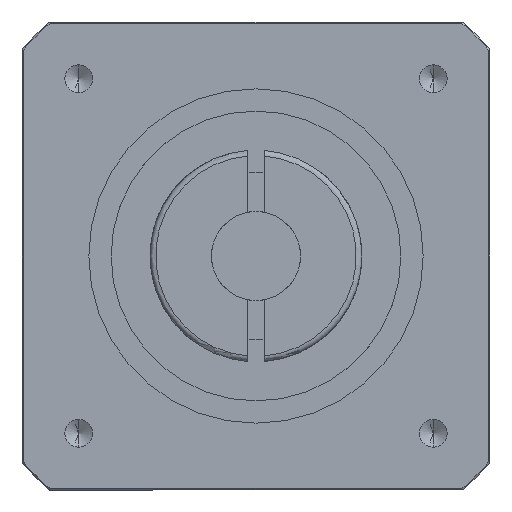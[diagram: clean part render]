
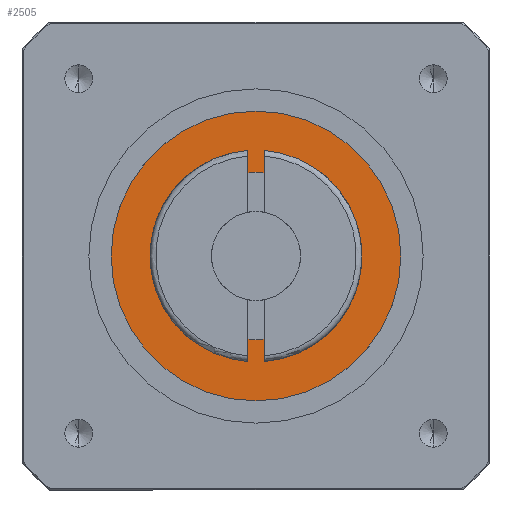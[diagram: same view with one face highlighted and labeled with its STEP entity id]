
A CAD part, front view. The second image highlights one B-rep face of the part: STEP entity #2505.
In plain terms, the highlighted planar face has unit normal (0, -1, 0).
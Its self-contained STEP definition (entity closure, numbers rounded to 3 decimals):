
#1043 = VERTEX_POINT ( 'NONE', #1630 ) ;
#1630 = CARTESIAN_POINT ( 'NONE',  ( 0., -64., -7.5 ) ) ;
#1774 = CARTESIAN_POINT ( 'NONE',  ( 0., -64., 7.5 ) ) ;
#1888 = CARTESIAN_POINT ( 'NONE',  ( 0., -64., 13. ) ) ;
#2079 = VERTEX_POINT ( 'NONE', #1888 ) ;
#2091 = VERTEX_POINT ( 'NONE', #1774 ) ;
#2130 = VERTEX_POINT ( 'NONE', #8986 ) ;
#2505 = ADVANCED_FACE ( 'NONE', ( #6871, #6875 ), #7913, .T. ) ;
#2688 = EDGE_CURVE ( 'NONE', #2091, #1043, #7138, .T. ) ;
#2692 = EDGE_CURVE ( 'NONE', #2079, #2130, #7140, .T. ) ;
#3477 = EDGE_LOOP ( 'NONE', ( #3758, #3759 ) ) ;
#3484 = EDGE_LOOP ( 'NONE', ( #3760, #3761 ) ) ;
#3758 = ORIENTED_EDGE ( 'NONE', *, *, #4402, .T. ) ;
#3759 = ORIENTED_EDGE ( 'NONE', *, *, #2692, .T. ) ;
#3760 = ORIENTED_EDGE ( 'NONE', *, *, #2688, .T. ) ;
#3761 = ORIENTED_EDGE ( 'NONE', *, *, #4403, .T. ) ;
#4402 = EDGE_CURVE ( 'NONE', #2130, #2079, #10139, .T. ) ;
#4403 = EDGE_CURVE ( 'NONE', #1043, #2091, #10151, .T. ) ;
#6344 = AXIS2_PLACEMENT_3D ( 'NONE', #7910, #7915, #7916 ) ;
#6871 = FACE_OUTER_BOUND ( 'NONE', #3477, .T. ) ;
#6875 = FACE_BOUND ( 'NONE', #3484, .T. ) ;
#7138 = CIRCLE ( 'NONE', #8624, 7.5 ) ;
#7140 = CIRCLE ( 'NONE', #8626, 13. ) ;
#7910 = CARTESIAN_POINT ( 'NONE',  ( 0., -64., 0. ) ) ;
#7913 = PLANE ( 'NONE',  #6344 ) ;
#7915 = DIRECTION ( 'NONE',  ( 0., -1., 0. ) ) ;
#7916 = DIRECTION ( 'NONE',  ( 0., 0., -1. ) ) ;
#8520 = CARTESIAN_POINT ( 'NONE',  ( 0., -64., 0. ) ) ;
#8521 = DIRECTION ( 'NONE',  ( 0., 1., 0. ) ) ;
#8522 = DIRECTION ( 'NONE',  ( 0., 0., 1. ) ) ;
#8624 = AXIS2_PLACEMENT_3D ( 'NONE', #8520, #8521, #8522 ) ;
#8626 = AXIS2_PLACEMENT_3D ( 'NONE', #9091, #9092, #9093 ) ;
#8750 = AXIS2_PLACEMENT_3D ( 'NONE', #11095, #11096, #11097 ) ;
#8751 = AXIS2_PLACEMENT_3D ( 'NONE', #11101, #11102, #11103 ) ;
#8986 = CARTESIAN_POINT ( 'NONE',  ( 0., -64., -13. ) ) ;
#9091 = CARTESIAN_POINT ( 'NONE',  ( 0., -64., 0. ) ) ;
#9092 = DIRECTION ( 'NONE',  ( 0., -1., 0. ) ) ;
#9093 = DIRECTION ( 'NONE',  ( 0., 0., -1. ) ) ;
#10139 = CIRCLE ( 'NONE', #8750, 13. ) ;
#10151 = CIRCLE ( 'NONE', #8751, 7.5 ) ;
#11095 = CARTESIAN_POINT ( 'NONE',  ( 0., -64., 0. ) ) ;
#11096 = DIRECTION ( 'NONE',  ( 0., -1., 0. ) ) ;
#11097 = DIRECTION ( 'NONE',  ( 0., 0., -1. ) ) ;
#11101 = CARTESIAN_POINT ( 'NONE',  ( 0., -64., 0. ) ) ;
#11102 = DIRECTION ( 'NONE',  ( 0., 1., 0. ) ) ;
#11103 = DIRECTION ( 'NONE',  ( 0., 0., 1. ) ) ;
